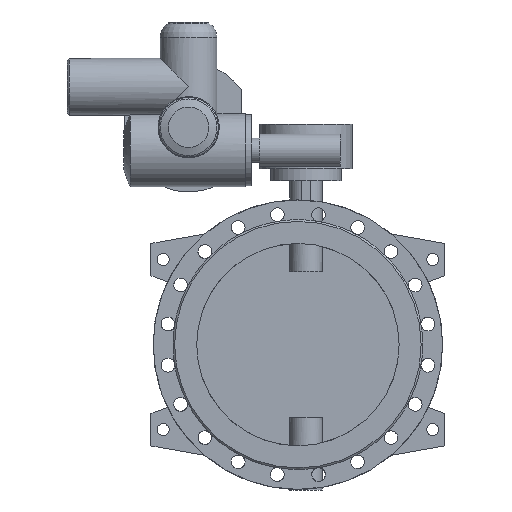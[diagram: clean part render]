
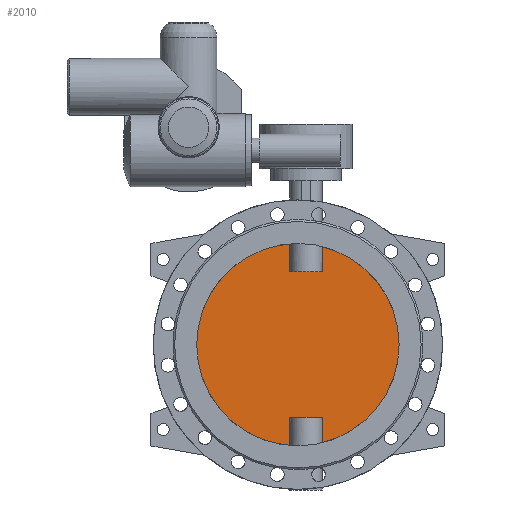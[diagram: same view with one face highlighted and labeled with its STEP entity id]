
A CAD part, front view. The second image highlights one B-rep face of the part: STEP entity #2010.
In plain terms, the highlighted planar face has unit normal (0, -1, 0).
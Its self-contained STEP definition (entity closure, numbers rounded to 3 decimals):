
#2010=ADVANCED_FACE('',(#3949),#3951,.F.);
#3949=FACE_BOUND('',#3950,.T.);
#3950=EDGE_LOOP('',(#5119,#5120,#5121,#5122,#5123,#5124,#5125,#5126));
#3951=PLANE('',#3952);
#3952=AXIS2_PLACEMENT_3D('',#3953,#3954,#3955);
#3953=CARTESIAN_POINT('',(0.,-5.,0.));
#3954=DIRECTION('',(0.,1.,0.));
#3955=DIRECTION('',(1.,0.,0.));
#5119=ORIENTED_EDGE('',*,*,#5705,.T.);
#5120=ORIENTED_EDGE('',*,*,#5710,.T.);
#5121=ORIENTED_EDGE('',*,*,#5711,.T.);
#5122=ORIENTED_EDGE('',*,*,#5712,.T.);
#5123=ORIENTED_EDGE('',*,*,#5707,.T.);
#5124=ORIENTED_EDGE('',*,*,#5713,.T.);
#5125=ORIENTED_EDGE('',*,*,#5714,.T.);
#5126=ORIENTED_EDGE('',*,*,#5715,.T.);
#5705=EDGE_CURVE('',#6719,#6720,#6721,.F.);
#5707=EDGE_CURVE('',#6724,#6722,#6725,.F.);
#5710=EDGE_CURVE('',#6720,#6729,#6730,.T.);
#5711=EDGE_CURVE('',#6729,#6731,#6732,.F.);
#5712=EDGE_CURVE('',#6731,#6724,#6733,.F.);
#5713=EDGE_CURVE('',#6722,#6734,#6735,.F.);
#5714=EDGE_CURVE('',#6734,#6736,#6737,.F.);
#5715=EDGE_CURVE('',#6736,#6719,#6738,.T.);
#6719=VERTEX_POINT('',#12405);
#6720=VERTEX_POINT('',#12406);
#6721=CIRCLE('',#12407,250.);
#6722=VERTEX_POINT('',#12411);
#6724=VERTEX_POINT('',#12502);
#6725=CIRCLE('',#12503,250.);
#6729=VERTEX_POINT('',#12608);
#6730=LINE('',#12609,#12610);
#6731=VERTEX_POINT('',#12612);
#6732=LINE('',#12613,#12614);
#6733=LINE('',#12616,#12617);
#6734=VERTEX_POINT('',#12619);
#6735=LINE('',#12620,#12621);
#6736=VERTEX_POINT('',#12623);
#6737=LINE('',#12624,#12625);
#6738=LINE('',#12627,#12628);
#12405=CARTESIAN_POINT('',(59.686,-5.,-242.771));
#12406=CARTESIAN_POINT('',(59.686,-5.,242.771));
#12407=AXIS2_PLACEMENT_3D('',#12408,#12409,#12410);
#12408=CARTESIAN_POINT('',(0.,-5.,0.));
#12409=DIRECTION('',(0.,1.,0.));
#12410=DIRECTION('',(0.239,0.,0.971));
#12411=CARTESIAN_POINT('',(-19.686,-5.,-249.224));
#12502=CARTESIAN_POINT('',(-19.686,-5.,249.224));
#12503=AXIS2_PLACEMENT_3D('',#12504,#12505,#12506);
#12504=CARTESIAN_POINT('',(0.,-5.,0.));
#12505=DIRECTION('',(0.,1.,0.));
#12506=DIRECTION('',(-0.079,0.,-0.997));
#12608=CARTESIAN_POINT('',(59.686,-5.,180.));
#12609=CARTESIAN_POINT('',(59.686,-5.,242.771));
#12610=VECTOR('',#12611,1.);
#12611=DIRECTION('',(0.,0.,-1.));
#12612=CARTESIAN_POINT('',(-19.686,-5.,180.));
#12613=CARTESIAN_POINT('',(-19.686,-5.,180.));
#12614=VECTOR('',#12615,1.);
#12615=DIRECTION('',(1.,0.,0.));
#12616=CARTESIAN_POINT('',(-19.686,-5.,249.224));
#12617=VECTOR('',#12618,1.);
#12618=DIRECTION('',(0.,0.,-1.));
#12619=CARTESIAN_POINT('',(-19.686,-5.,-180.));
#12620=CARTESIAN_POINT('',(-19.686,-5.,-180.));
#12621=VECTOR('',#12622,1.);
#12622=DIRECTION('',(0.,0.,-1.));
#12623=CARTESIAN_POINT('',(59.686,-5.,-180.));
#12624=CARTESIAN_POINT('',(59.686,-5.,-180.));
#12625=VECTOR('',#12626,1.);
#12626=DIRECTION('',(-1.,0.,0.));
#12627=CARTESIAN_POINT('',(59.686,-5.,-180.));
#12628=VECTOR('',#12629,1.);
#12629=DIRECTION('',(0.,0.,-1.));
